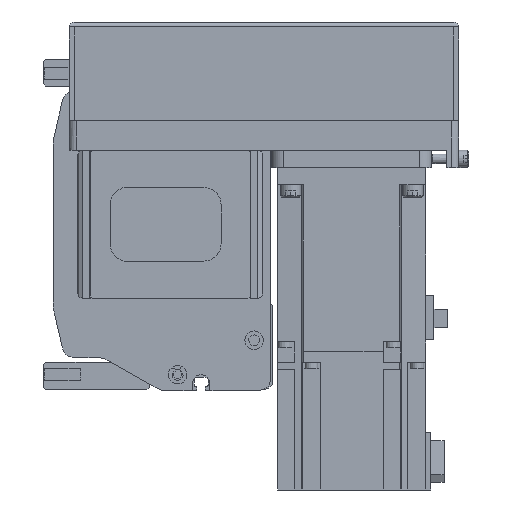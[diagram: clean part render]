
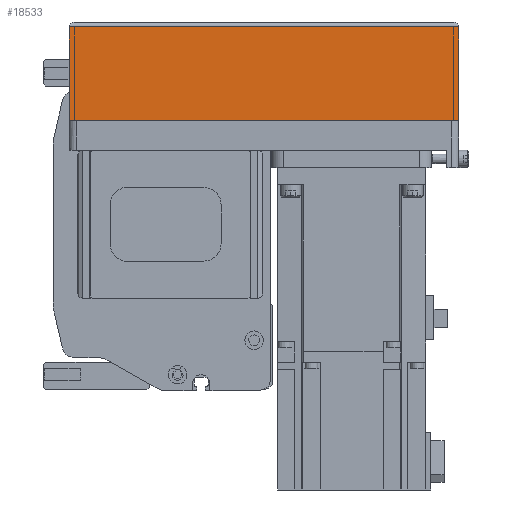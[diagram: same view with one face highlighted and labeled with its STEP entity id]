
A CAD part, left-side view. The second image highlights one B-rep face of the part: STEP entity #18533.
In plain terms, the highlighted planar face has unit normal (-1, 0, 0) as drawn and (0, -1, 0) by its records, which use the part's own axes.
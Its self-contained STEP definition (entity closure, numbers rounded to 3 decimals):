
#2874=ORIENTED_EDGE('',*,*,#7429,.F.);
#2875=ORIENTED_EDGE('',*,*,#7411,.F.);
#2876=ORIENTED_EDGE('',*,*,#7446,.T.);
#2877=ORIENTED_EDGE('',*,*,#7501,.T.);
#7411=EDGE_CURVE('',#9879,#9880,#11773,.T.);
#7429=EDGE_CURVE('',#9880,#9896,#11791,.T.);
#7446=EDGE_CURVE('',#9879,#9906,#11804,.T.);
#7501=EDGE_CURVE('',#9906,#9896,#11832,.T.);
#9879=VERTEX_POINT('',#28398);
#9880=VERTEX_POINT('',#28399);
#9896=VERTEX_POINT('',#28436);
#9906=VERTEX_POINT('',#28466);
#11773=LINE('',#28397,#13443);
#11791=LINE('',#28435,#13461);
#11804=LINE('',#28467,#13474);
#11832=LINE('',#28565,#13502);
#13443=VECTOR('',#22727,1000.);
#13461=VECTOR('',#22751,1000.);
#13474=VECTOR('',#22780,1000.);
#13502=VECTOR('',#22908,1000.);
#15001=EDGE_LOOP('',(#2874,#2875,#2876,#2877));
#16471=FACE_BOUND('',#15001,.T.);
#17768=PLANE('',#19882);
#18533=ADVANCED_FACE('',(#16471),#17768,.T.);
#19882=AXIS2_PLACEMENT_3D('',#28566,#22909,#22910);
#22727=DIRECTION('',(1.,0.,0.));
#22751=DIRECTION('',(0.,0.,-1.));
#22780=DIRECTION('',(0.,0.,-1.));
#22908=DIRECTION('',(1.,0.,0.));
#22909=DIRECTION('',(0.,-1.,0.));
#22910=DIRECTION('',(0.,0.,-1.));
#28397=CARTESIAN_POINT('',(-158.,-39.,-12.1));
#28398=CARTESIAN_POINT('',(-158.,-39.,-12.1));
#28399=CARTESIAN_POINT('',(0.,-39.,-12.1));
#28435=CARTESIAN_POINT('',(0.,-39.,-12.1));
#28436=CARTESIAN_POINT('',(0.,-39.,-50.));
#28466=CARTESIAN_POINT('',(-158.,-39.,-50.));
#28467=CARTESIAN_POINT('',(-158.,-39.,-12.1));
#28565=CARTESIAN_POINT('',(-158.,-39.,-50.));
#28566=CARTESIAN_POINT('',(-158.,-39.,-12.1));
